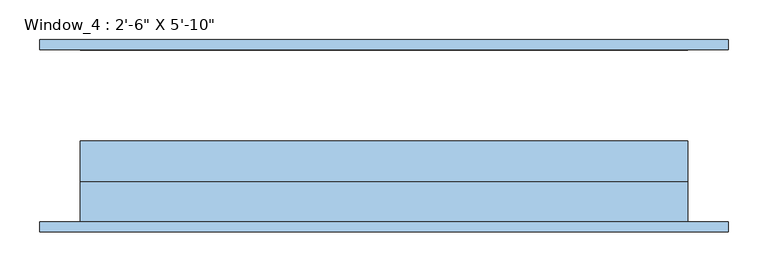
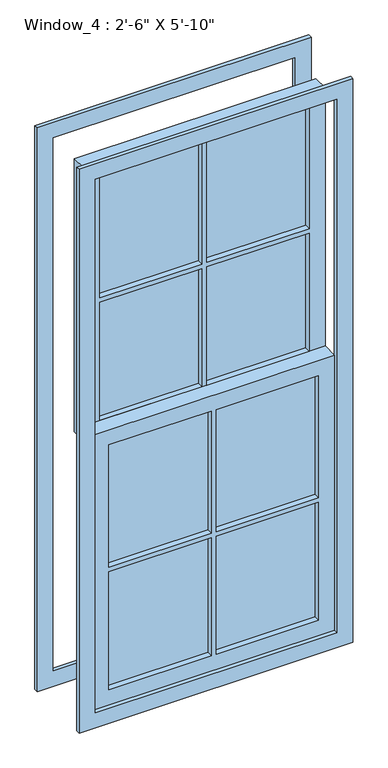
"""IFC4 building model written with IfcOpenShell, lengths in millimetres: window geometry."""

from ifc_helpers import new_model, si_unit, frame, origin, place, context, project, spatial, polyline, outline, extrude, source, transform, mapped, element, save


def window_3ec4ada6(model_context):
    return source(origin(), model_context, "Body", "SweptSolid", [
        extrude(outline(polyline([(330.2, -38.1), (7.540625, -38.1), (7.540625, -24.8146408), (330.2, -24.8146408), (330.2, -38.1)])), frame((0.0, 0.0, 2189.95625), z_axis=(0.0, 0.0, 1.0), x_axis=(1.0, 0.0, 0.0)), (0.0, 0.0, 1.0), 400.84375),
        extrude(outline(polyline([(-7.540625, -38.1), (-330.2, -38.1), (-330.2, -24.8146408), (-7.540625, -24.8146408), (-7.540625, -38.1)])), frame((0.0, 0.0, 2189.95625), z_axis=(0.0, 0.0, 1.0), x_axis=(1.0, 0.0, 0.0)), (0.0, 0.0, 1.0), 400.84375),
        extrude(outline(polyline([(330.2, -38.1), (7.540625, -38.1), (7.540625, -24.8146408), (330.2, -24.8146408), (330.2, -38.1)])), frame((0.0, 0.0, 1781.175), z_axis=(0.0, 0.0, 1.0), x_axis=(1.0, 0.0, 0.0)), (0.0, 0.0, 1.0), 393.7),
        extrude(outline(polyline([(-7.540625, -38.1), (-330.2, -38.1), (-330.2, -24.8146408), (-7.540625, -24.8146408), (-7.540625, -38.1)])), frame((0.0, 0.0, 1781.175), z_axis=(0.0, 0.0, 1.0), x_axis=(1.0, 0.0, 0.0)), (0.0, 0.0, 1.0), 393.7),
        extrude(outline(polyline([(2641.6, -381.0), (1730.375, -381.0), (1730.375, 381.0), (2641.6, 381.0), (2641.6, -381.0)]), holes=[polyline([(2590.8, 7.540625), (2590.8, 330.2), (2189.95625, 330.2), (2189.95625, 7.540625), (2590.8, 7.540625)]), polyline([(1781.175, 7.540625), (2174.875, 7.540625), (2174.875, 330.2), (1781.175, 330.2), (1781.175, 7.540625)]), polyline([(2189.95625, -330.2), (2590.8, -330.2), (2590.8, -7.540625), (2189.95625, -7.540625), (2189.95625, -330.2)]), polyline([(1781.175, -330.2), (2174.875, -330.2), (2174.875, -7.540625), (1781.175, -7.540625), (1781.175, -330.2)])]), frame((0.0, -57.15, 0.0), z_axis=(0.0, 1.0, 0.0), x_axis=(0.0, 0.0, 1.0)), (0.0, 0.0, 1.0), 50.8),
        extrude(outline(polyline([(7.540625, -76.2), (330.2, -76.2), (330.2, -88.9), (7.540625, -88.9), (7.540625, -76.2)])), frame((0.0, 0.0, 1323.18125), z_axis=(0.0, 0.0, 1.0), x_axis=(1.0, 0.0, 0.0)), (0.0, 0.0, 1.0), 407.19375),
        extrude(outline(polyline([(7.540625, -76.2), (330.2, -76.2), (330.2, -88.9), (7.540625, -88.9), (7.540625, -76.2)])), frame((0.0, 0.0, 914.4), z_axis=(0.0, 0.0, 1.0), x_axis=(1.0, 0.0, 0.0)), (0.0, 0.0, 1.0), 393.7),
        extrude(outline(polyline([(-330.2, -76.2), (-7.540625, -76.2), (-7.540625, -88.9), (-330.2, -88.9), (-330.2, -76.2)])), frame((0.0, 0.0, 1323.18125), z_axis=(0.0, 0.0, 1.0), x_axis=(1.0, 0.0, 0.0)), (0.0, 0.0, 1.0), 407.19375),
        extrude(outline(polyline([(-330.2, -76.2), (-7.540625, -76.2), (-7.540625, -88.9), (-330.2, -88.9), (-330.2, -76.2)])), frame((0.0, 0.0, 914.4), z_axis=(0.0, 0.0, 1.0), x_axis=(1.0, 0.0, 0.0)), (0.0, 0.0, 1.0), 393.7),
        extrude(outline(polyline([(1781.175, -381.0), (863.6, -381.0), (863.6, 381.0), (1781.175, 381.0), (1781.175, -381.0)]), holes=[polyline([(914.4, 7.540625), (1308.1, 7.540625), (1308.1, 330.2), (914.4, 330.2), (914.4, 7.540625)]), polyline([(914.4, -330.2), (1308.1, -330.2), (1308.1, -7.540625), (914.4, -7.540625), (914.4, -330.2)]), polyline([(1730.375, 7.540625), (1730.375, 330.2), (1323.18125, 330.2), (1323.18125, 7.540625), (1730.375, 7.540625)]), polyline([(1323.18125, -330.2), (1730.375, -330.2), (1730.375, -7.540625), (1323.18125, -7.540625), (1323.18125, -330.2)])]), frame((0.0, -107.95, 0.0), z_axis=(0.0, 1.0, 0.0), x_axis=(0.0, 0.0, 1.0)), (0.0, 0.0, 1.0), 50.8),
        extrude(outline(polyline([(812.8, 431.8), (2692.4, 431.8), (2692.4, -431.8), (812.8, -431.8), (812.8, 431.8)]), holes=[polyline([(863.6, 381.0), (863.6, -381.0), (2641.6, -381.0), (2641.6, 381.0), (863.6, 381.0)])]), frame((0.0, -120.65, 0.0), z_axis=(0.0, 1.0, 0.0), x_axis=(0.0, 0.0, 1.0)), (0.0, 0.0, 1.0), 12.7),
        extrude(outline(polyline([(812.8, 431.8), (2692.4, 431.8), (2692.4, -431.8), (812.8, -431.8), (812.8, 431.8)]), holes=[polyline([(863.6, 381.0), (863.6, -381.0), (2641.6, -381.0), (2641.6, 381.0), (863.6, 381.0)])]), frame((0.0, 107.95, 0.0), z_axis=(0.0, 1.0, 0.0), x_axis=(0.0, 0.0, 1.0)), (0.0, 0.0, 1.0), 12.7),
    ])


if __name__ == "__main__":
    model = new_model("IFC4")
    model_context = context("Model", 3, world=origin())
    ifc_project = project(units=[si_unit("LENGTHUNIT", "METRE", prefix="MILLI")], contexts=[model_context])
    site = spatial("IfcSite", under=ifc_project)
    building = spatial("IfcBuilding", under=site)
    placement = place(None, origin())
    window_shape = window_3ec4ada6(model_context)
    element("IfcWindow", 1, ObjectType="Window_4 : 2'-6\" X 5'-10\"", at=placement, inside=building, context=model_context, shape_type="MappedRepresentation", body=[
        mapped(window_shape, transform((0.0, 0.0, 0.0), x_axis=(1.0, 0.0, 0.0), y_axis=(0.0, 1.0, 0.0), z_axis=(0.0, 0.0, 1.0))),
    ])
    save(model, "model.ifc")
